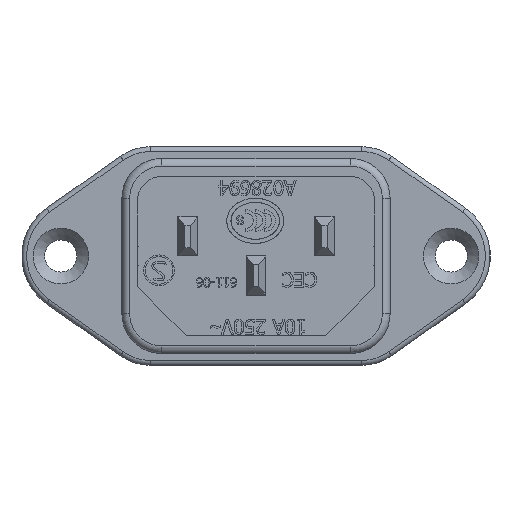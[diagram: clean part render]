
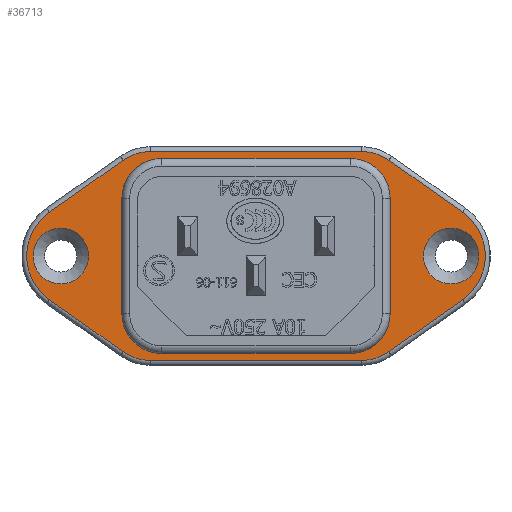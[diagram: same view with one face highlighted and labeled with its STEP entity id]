
A CAD part, front view. The second image highlights one B-rep face of the part: STEP entity #36713.
In plain terms, the highlighted planar face has unit normal (0, -1, 0).
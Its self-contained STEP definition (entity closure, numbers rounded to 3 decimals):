
#1199=FACE_BOUND('',#4088,.T.);
#1200=FACE_BOUND('',#4089,.T.);
#1201=FACE_BOUND('',#4090,.T.);
#1478=CIRCLE('',#38715,2.85);
#1481=CIRCLE('',#38720,2.85);
#1500=CIRCLE('',#38750,4.1);
#1501=CIRCLE('',#38753,4.1);
#1504=CIRCLE('',#38758,4.8);
#1508=CIRCLE('',#38763,4.8);
#1514=CIRCLE('',#38771,5.5);
#1520=CIRCLE('',#38780,4.8);
#1522=CIRCLE('',#38785,4.8);
#1529=CIRCLE('',#38796,5.5);
#1536=CIRCLE('',#38811,4.1);
#1537=CIRCLE('',#38812,4.1);
#2190=FACE_OUTER_BOUND('',#4087,.T.);
#4087=EDGE_LOOP('',(#25436,#25437,#25438,#25439,#25440,#25441,#25442,#25443,
#25444,#25445,#25446,#25447));
#4088=EDGE_LOOP('',(#25448));
#4089=EDGE_LOOP('',(#25449));
#4090=EDGE_LOOP('',(#25450,#25451,#25452,#25453,#25454,#25455,#25456,#25457));
#6791=LINE('',#51061,#10979);
#6795=LINE('',#51070,#10983);
#6803=LINE('',#51114,#10991);
#6805=LINE('',#51123,#10993);
#6812=LINE('',#51148,#11000);
#6814=LINE('',#51160,#11002);
#6817=LINE('',#51171,#11005);
#6819=LINE('',#51180,#11007);
#6836=LINE('',#51225,#11024);
#6837=LINE('',#51227,#11025);
#10979=VECTOR('',#42571,10.);
#10983=VECTOR('',#42581,10.);
#10991=VECTOR('',#42623,10.);
#10993=VECTOR('',#42635,10.);
#11000=VECTOR('',#42662,10.);
#11002=VECTOR('',#42676,10.);
#11005=VECTOR('',#42687,10.);
#11007=VECTOR('',#42699,10.);
#11024=VECTOR('',#42742,10.);
#11025=VECTOR('',#42745,10.);
#14850=VERTEX_POINT('',#50994);
#14853=VERTEX_POINT('',#51002);
#14872=VERTEX_POINT('',#51058);
#14873=VERTEX_POINT('',#51060);
#14874=VERTEX_POINT('',#51064);
#14875=VERTEX_POINT('',#51068);
#14876=VERTEX_POINT('',#51072);
#14885=VERTEX_POINT('',#51093);
#14886=VERTEX_POINT('',#51094);
#14889=VERTEX_POINT('',#51102);
#14890=VERTEX_POINT('',#51103);
#14894=VERTEX_POINT('',#51112);
#14896=VERTEX_POINT('',#51118);
#14900=VERTEX_POINT('',#51133);
#14902=VERTEX_POINT('',#51137);
#14905=VERTEX_POINT('',#51150);
#14906=VERTEX_POINT('',#51151);
#14912=VERTEX_POINT('',#51169);
#14914=VERTEX_POINT('',#51175);
#14927=VERTEX_POINT('',#51221);
#14928=VERTEX_POINT('',#51222);
#14929=VERTEX_POINT('',#51224);
#18757=EDGE_CURVE('',#14850,#14850,#1478,.T.);
#18760=EDGE_CURVE('',#14853,#14853,#1481,.T.);
#18788=EDGE_CURVE('',#14873,#14872,#6791,.T.);
#18791=EDGE_CURVE('',#14872,#14874,#1500,.T.);
#18793=EDGE_CURVE('',#14874,#14875,#6795,.T.);
#18795=EDGE_CURVE('',#14875,#14876,#1501,.T.);
#18804=EDGE_CURVE('',#14885,#14886,#1504,.T.);
#18808=EDGE_CURVE('',#14889,#14890,#1508,.T.);
#18813=EDGE_CURVE('',#14894,#14885,#6803,.T.);
#18816=EDGE_CURVE('',#14896,#14894,#1514,.T.);
#18818=EDGE_CURVE('',#14890,#14896,#6805,.T.);
#18826=EDGE_CURVE('',#14902,#14900,#1520,.T.);
#18831=EDGE_CURVE('',#14886,#14902,#6812,.T.);
#18832=EDGE_CURVE('',#14905,#14906,#1522,.T.);
#18837=EDGE_CURVE('',#14906,#14889,#6814,.T.);
#18842=EDGE_CURVE('',#14912,#14905,#6817,.T.);
#18845=EDGE_CURVE('',#14914,#14912,#1529,.T.);
#18847=EDGE_CURVE('',#14900,#14914,#6819,.T.);
#18869=EDGE_CURVE('',#14927,#14928,#1536,.T.);
#18870=EDGE_CURVE('',#14928,#14929,#6836,.T.);
#18871=EDGE_CURVE('',#14929,#14873,#1537,.T.);
#18872=EDGE_CURVE('',#14876,#14927,#6837,.T.);
#25436=ORIENTED_EDGE('',*,*,#18832,.F.);
#25437=ORIENTED_EDGE('',*,*,#18842,.F.);
#25438=ORIENTED_EDGE('',*,*,#18845,.F.);
#25439=ORIENTED_EDGE('',*,*,#18847,.F.);
#25440=ORIENTED_EDGE('',*,*,#18826,.F.);
#25441=ORIENTED_EDGE('',*,*,#18831,.F.);
#25442=ORIENTED_EDGE('',*,*,#18804,.F.);
#25443=ORIENTED_EDGE('',*,*,#18813,.F.);
#25444=ORIENTED_EDGE('',*,*,#18816,.F.);
#25445=ORIENTED_EDGE('',*,*,#18818,.F.);
#25446=ORIENTED_EDGE('',*,*,#18808,.F.);
#25447=ORIENTED_EDGE('',*,*,#18837,.F.);
#25448=ORIENTED_EDGE('',*,*,#18757,.T.);
#25449=ORIENTED_EDGE('',*,*,#18760,.T.);
#25450=ORIENTED_EDGE('',*,*,#18869,.T.);
#25451=ORIENTED_EDGE('',*,*,#18870,.T.);
#25452=ORIENTED_EDGE('',*,*,#18871,.T.);
#25453=ORIENTED_EDGE('',*,*,#18788,.T.);
#25454=ORIENTED_EDGE('',*,*,#18791,.T.);
#25455=ORIENTED_EDGE('',*,*,#18793,.T.);
#25456=ORIENTED_EDGE('',*,*,#18795,.T.);
#25457=ORIENTED_EDGE('',*,*,#18872,.T.);
#33393=PLANE('',#38810);
#36713=ADVANCED_FACE('',(#2190,#1199,#1200,#1201),#33393,.T.);
#38715=AXIS2_PLACEMENT_3D('',#50995,#42494,#42495);
#38720=AXIS2_PLACEMENT_3D('',#51003,#42504,#42505);
#38750=AXIS2_PLACEMENT_3D('',#51066,#42576,#42577);
#38753=AXIS2_PLACEMENT_3D('',#51074,#42585,#42586);
#38758=AXIS2_PLACEMENT_3D('',#51095,#42601,#42602);
#38763=AXIS2_PLACEMENT_3D('',#51104,#42611,#42612);
#38771=AXIS2_PLACEMENT_3D('',#51120,#42629,#42630);
#38780=AXIS2_PLACEMENT_3D('',#51139,#42651,#42652);
#38785=AXIS2_PLACEMENT_3D('',#51152,#42665,#42666);
#38796=AXIS2_PLACEMENT_3D('',#51177,#42693,#42694);
#38810=AXIS2_PLACEMENT_3D('',#51220,#42738,#42739);
#38811=AXIS2_PLACEMENT_3D('',#51223,#42740,#42741);
#38812=AXIS2_PLACEMENT_3D('',#51226,#42743,#42744);
#42494=DIRECTION('center_axis',(0.,1.,0.));
#42495=DIRECTION('ref_axis',(1.,0.,0.));
#42504=DIRECTION('center_axis',(0.,1.,0.));
#42505=DIRECTION('ref_axis',(1.,0.,0.));
#42571=DIRECTION('',(-1.,0.,0.));
#42576=DIRECTION('center_axis',(0.,1.,0.));
#42577=DIRECTION('ref_axis',(1.,0.,0.));
#42581=DIRECTION('',(0.,0.,1.));
#42585=DIRECTION('center_axis',(0.,1.,0.));
#42586=DIRECTION('ref_axis',(0.,0.,
-1.));
#42601=DIRECTION('center_axis',(0.,1.,0.));
#42602=DIRECTION('ref_axis',(-0.302,0.,0.953));
#42611=DIRECTION('center_axis',(0.,1.,0.));
#42612=DIRECTION('ref_axis',(-0.302,0.,-0.953));
#42623=DIRECTION('',(0.818,0.,0.576));
#42629=DIRECTION('center_axis',(0.,1.,0.));
#42630=DIRECTION('ref_axis',(-1.,0.,0.));
#42635=DIRECTION('',(-0.818,0.,0.576));
#42651=DIRECTION('center_axis',(0.,1.,0.));
#42652=DIRECTION('ref_axis',(0.302,0.,0.953));
#42662=DIRECTION('',(1.,0.,0.));
#42665=DIRECTION('center_axis',(0.,1.,0.));
#42666=DIRECTION('ref_axis',(0.302,0.,-0.953));
#42676=DIRECTION('',(-1.,0.,0.));
#42687=DIRECTION('',(-0.818,0.,-0.576));
#42693=DIRECTION('center_axis',(0.,1.,0.));
#42694=DIRECTION('ref_axis',(1.,0.,0.));
#42699=DIRECTION('',(0.818,0.,-0.576));
#42738=DIRECTION('center_axis',(0.,-1.,0.));
#42739=DIRECTION('ref_axis',(1.,0.,0.));
#42740=DIRECTION('center_axis',(0.,1.,0.));
#42741=DIRECTION('ref_axis',(-1.,0.,0.));
#42742=DIRECTION('',(0.,0.,-1.));
#42743=DIRECTION('center_axis',(0.,1.,0.));
#42744=DIRECTION('ref_axis',(0.,0.,
1.));
#42745=DIRECTION('',(1.,0.,0.));
#50994=CARTESIAN_POINT('',(-27.253,-19.768,0.168));
#50995=CARTESIAN_POINT('Origin',(-30.103,-19.768,0.168));
#51002=CARTESIAN_POINT('',(12.747,-19.768,0.168));
#51003=CARTESIAN_POINT('Origin',(9.897,-19.768,0.168));
#51058=CARTESIAN_POINT('',(-19.753,-19.768,-9.832));
#51060=CARTESIAN_POINT('',(-0.453,-19.768,-9.832));
#51061=CARTESIAN_POINT('',(-0.453,-19.768,-9.832));
#51064=CARTESIAN_POINT('',(-23.853,-19.768,-5.732));
#51066=CARTESIAN_POINT('Origin',(-19.753,-19.768,-5.732));
#51068=CARTESIAN_POINT('',(-23.853,-19.768,6.068));
#51070=CARTESIAN_POINT('',(-23.853,-19.768,-5.732));
#51072=CARTESIAN_POINT('',(-19.753,-19.768,10.168));
#51074=CARTESIAN_POINT('Origin',(-19.753,-19.768,6.068));
#51093=CARTESIAN_POINT('',(-23.703,-19.768,9.993));
#51094=CARTESIAN_POINT('',(-20.94,-19.768,10.868));
#51095=CARTESIAN_POINT('Origin',(-20.94,-19.768,6.068));
#51102=CARTESIAN_POINT('',(-20.94,-19.768,-10.532));
#51103=CARTESIAN_POINT('',(-23.703,-19.768,-9.656));
#51104=CARTESIAN_POINT('Origin',(-20.94,-19.768,-5.732));
#51112=CARTESIAN_POINT('',(-31.27,-19.768,4.665));
#51114=CARTESIAN_POINT('',(-25.253,-19.768,8.902));
#51118=CARTESIAN_POINT('',(-31.27,-19.768,-4.329));
#51120=CARTESIAN_POINT('Origin',(-28.103,-19.768,0.168));
#51123=CARTESIAN_POINT('',(-20.783,-19.768,-11.713));
#51133=CARTESIAN_POINT('',(3.497,-19.768,9.993));
#51137=CARTESIAN_POINT('',(0.733,-19.768,10.868));
#51139=CARTESIAN_POINT('Origin',(0.733,-19.768,6.068));
#51148=CARTESIAN_POINT('',(-21.603,-19.768,10.868));
#51150=CARTESIAN_POINT('',(3.497,-19.768,-9.656));
#51151=CARTESIAN_POINT('',(0.733,-19.768,-10.532));
#51152=CARTESIAN_POINT('Origin',(0.733,-19.768,-5.732));
#51160=CARTESIAN_POINT('',(1.397,-19.768,-10.532));
#51169=CARTESIAN_POINT('',(11.063,-19.768,-4.329));
#51171=CARTESIAN_POINT('',(0.577,-19.768,-11.713));
#51175=CARTESIAN_POINT('',(11.063,-19.768,4.665));
#51177=CARTESIAN_POINT('Origin',(7.897,-19.768,0.168));
#51180=CARTESIAN_POINT('',(5.046,-19.768,8.902));
#51220=CARTESIAN_POINT('Origin',(-10.103,-19.768,0.168));
#51221=CARTESIAN_POINT('',(-0.453,-19.768,10.168));
#51222=CARTESIAN_POINT('',(3.647,-19.768,6.068));
#51223=CARTESIAN_POINT('Origin',(-0.453,-19.768,6.068));
#51224=CARTESIAN_POINT('',(3.647,-19.768,-5.732));
#51225=CARTESIAN_POINT('',(3.647,-19.768,6.068));
#51226=CARTESIAN_POINT('Origin',(-0.453,-19.768,-5.732));
#51227=CARTESIAN_POINT('',(-19.753,-19.768,10.168));
